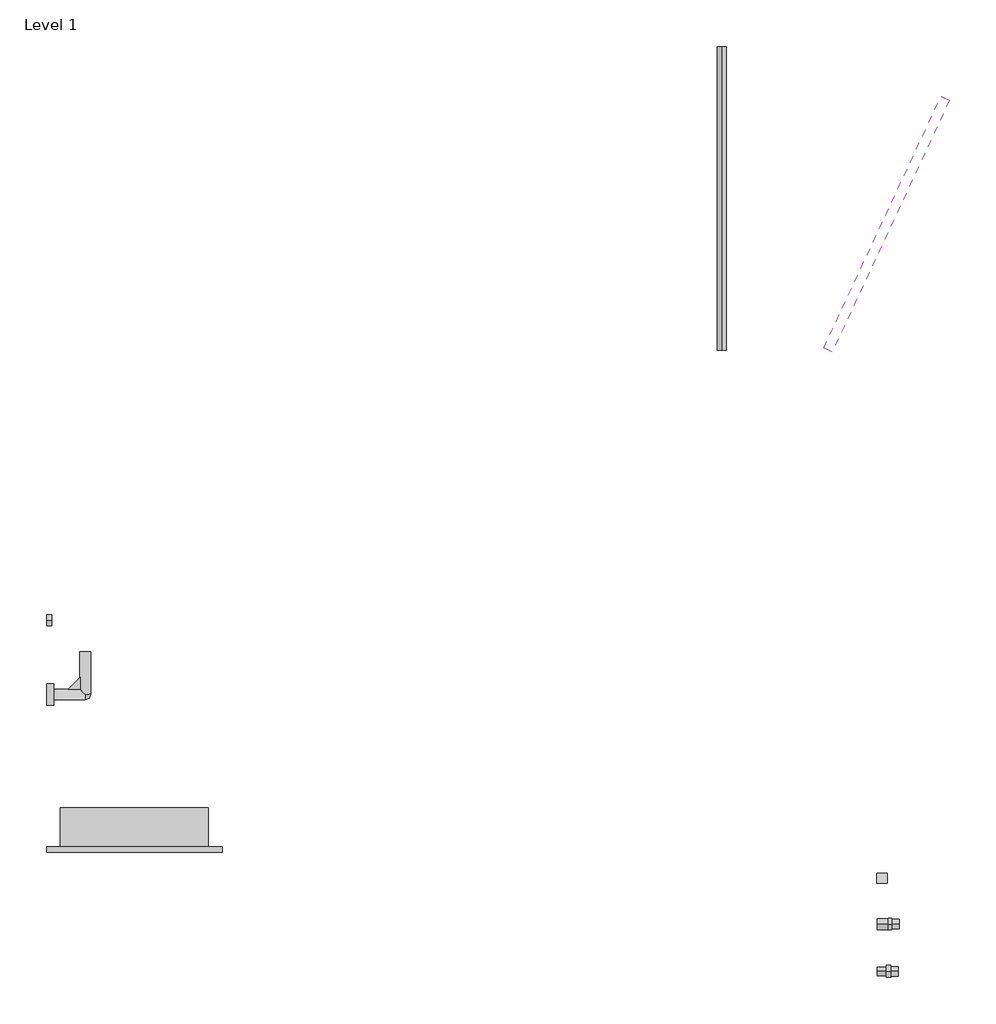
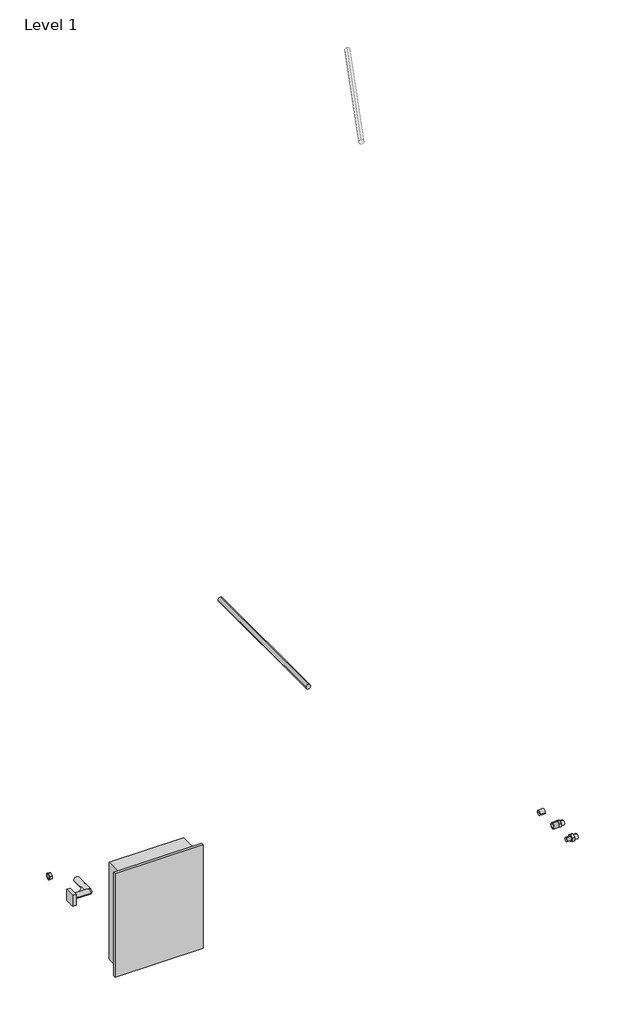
# One storey, incomplete: 6 pipe fittings, 2 pipe segments, 1 valve.
"""IFC4 building model written with IfcOpenShell, lengths in millimetres."""

from ifc_helpers import new_model, si_unit, point, frame, frame_2d, origin, place, context, project, spatial, circle_curve, trimmed, segment, composite_curve, outline, extrude, transform, mapped, element, save
from components import var_229d13c0, var_d1815faf, var_25c4f382, var_dd9a576a, var_9b609cd4, var_5fb657c0, valve_1d31a9d0

model = new_model("IFC4")

# Units and contexts
model_context = context("Model", 3, world=origin())
ifc_project = project(units=[si_unit("LENGTHUNIT", "METRE", prefix="MILLI")], contexts=[model_context])

# Site, building, storey
site = spatial("IfcSite", under=ifc_project)
building = spatial("IfcBuilding", under=site)
storey = spatial("IfcBuildingStorey", under=building, Name="Level 1", Elevation=0.0)

# Pipe fittings
placement = place(None, origin())
var_shape = var_229d13c0(model_context)
element("IfcPipeFitting", 1, ObjectType="Wavin_Tappevann_Brass_Manifold TF Cap : Var.", at=placement, inside=storey, context=model_context, shape_type="MappedRepresentation", body=[
    mapped(var_shape, transform((-3879.8779653, 6923.4747669, 0.0), x_axis=(1.0, 0.0, 0.0), y_axis=(0.0, 1.0, 0.0), z_axis=(0.0, 0.0, 1.0))),
])
var_2_shape = var_d1815faf(model_context)
element("IfcPipeFitting", 2, ObjectType="Wavin_Tappevann_Brass_Manifold Cabinet : Var.", at=placement, inside=storey, context=model_context, shape_type="MappedRepresentation", body=[
    mapped(var_2_shape, transform((-3655.1562429, 6311.9572591, 100.0), x_axis=(1.0000000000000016, 0.0, 0.0), y_axis=(0.0, 1.0000000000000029, 0.0), z_axis=(0.0, 0.0, 1.0000000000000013))),
])
var_3_shape = var_25c4f382(model_context)
element("IfcPipeFitting", 3, ObjectType="Z_Wavin Tigris K1 Manifold Female Cap (nested) : Var.", at=placement, inside=storey, context=model_context, shape_type="MappedRepresentation", body=[
    mapped(var_3_shape, transform((-1643.0205083, 6227.2671141, 0.0), x_axis=(-1.0, 0.0, 0.0), y_axis=(0.0, 1.0000000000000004, 0.0), z_axis=(0.0, 0.0, -1.0000000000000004))),
])
var_4_shape = var_dd9a576a(model_context)
element("IfcPipeFitting", 4, ObjectType="Wavin Tigris K1 Manifold Male to Male Thread : Var.", at=placement, inside=storey, context=model_context, shape_type="MappedRepresentation", body=[
    mapped(var_4_shape, transform((-1591.6279653, 5975.6747669, 0.0), x_axis=(1.0, 0.0, 0.0), y_axis=(0.0, 1.0, 0.0), z_axis=(0.0, 0.0, 1.0))),
])
var_5_shape = var_9b609cd4(model_context)
element("IfcPipeFitting", 5, ObjectType="Wavin Tigris K1 Manifold Female to Male Thread : Var.", at=placement, inside=storey, context=model_context, shape_type="MappedRepresentation", body=[
    mapped(var_5_shape, transform((-1589.7962798, 6103.4672348, 0.0), x_axis=(1.0, 0.0, 0.0), y_axis=(0.0, 1.0, 0.0), z_axis=(0.0, 0.0, 1.0))),
])
var_6_shape = var_5fb657c0(model_context)
element("IfcPipeFitting", 6, ObjectType="Z_Wavin_Tappevann Plastic Cap for Dranaige Kit (nested) : var.", at=placement, inside=storey, context=model_context, shape_type="MappedRepresentation", body=[
    mapped(var_6_shape, transform((-3872.6779653, 6723.4747669, 0.0), x_axis=(1.0, 0.0, 0.0), y_axis=(0.0, 1.0, 0.0), z_axis=(0.0, 0.0, 1.0))),
])

# Pipe segments
element("IfcPipeSegment", 7, ObjectType="Wavin Tappevann PEX-ONE P.I.P PEX (DO)", at=placement, inside=storey, context=model_context, shape_type="SweptSolid", body=[
    extrude(outline(composite_curve([segment(trimmed(circle_curve(frame_2d((0.0, -2069.021236)), 12.5), [point((0.0, -2081.521236))], [point((-12.5, -2069.021236))], False, "CARTESIAN"), True, "CONTINUOUS"), segment(trimmed(circle_curve(frame_2d((0.0, -2069.021236)), 12.5), [point((-12.5, -2069.021236))], [point((0.0, -2056.521236))], False, "CARTESIAN"), True, "CONTINUOUS"), segment(trimmed(circle_curve(frame_2d((0.0, -2069.021236)), 12.5), [point((0.0, -2056.521236))], [point((12.5, -2069.021236))], False, "CARTESIAN"), True, "CONTINUOUS"), segment(trimmed(circle_curve(frame_2d((0.0, -2069.021236)), 12.5), [point((12.5, -2069.021236))], [point((0.0, -2081.521236))], False, "CARTESIAN"), True, "CONTINUOUS")], self_intersect=False)), frame((0.0, 7653.1263507, 0.0), z_axis=(0.0, 1.0, 0.0), x_axis=(0.0, 0.0, 1.0)), (0.0, 0.0, 1.0), 820.0),
])
element("IfcPipeSegment", 8, ObjectType="Wavin Tappevann PEX-ONE P.I.P PEX (DO)", at=placement, inside=storey, context=model_context, shape_type="SweptSolid", body=[
    extrude(outline(composite_curve([segment(trimmed(circle_curve(frame_2d((0.0, 12.5)), 12.5), [point((12.5, 12.5))], [point((0.0, 0.0))], False, "CARTESIAN"), True, "CONTINUOUS"), segment(trimmed(circle_curve(frame_2d((0.0, 12.5)), 12.5), [point((0.0, 0.0))], [point((-12.5, 12.5))], False, "CARTESIAN"), True, "CONTINUOUS"), segment(trimmed(circle_curve(frame_2d((0.0, 12.5)), 12.5), [point((-12.5, 12.5))], [point((0.0, 25.0))], False, "CARTESIAN"), True, "CONTINUOUS"), segment(trimmed(circle_curve(frame_2d((0.0, 12.5)), 12.5), [point((0.0, 25.0))], [point((12.5, 12.5))], False, "CARTESIAN"), True, "CONTINUOUS")], self_intersect=False)), frame((-1781.8528614, 7653.1263507, 3012.5), z_axis=(0.4222215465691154, 0.9064926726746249, 0.0), x_axis=(0.9064926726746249, -0.4222215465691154, 0.0)), (0.0, 0.0, 1.0), 749.650565),
])

# Valve
valve_shape = valve_1d31a9d0(model_context)
element("IfcValve", 9, ObjectType="Wavin Tappevann Drainage Kit : Dranaige Kit", at=placement, inside=storey, context=model_context, shape_type="MappedRepresentation", body=[
    mapped(valve_shape, transform((-3787.3779653, 6723.4747669, 0.0), x_axis=(1.0, 0.0, 0.0), y_axis=(0.0, 1.0, 0.0), z_axis=(0.0, 0.0, 1.0))),
])

save(model, "model.ifc")
